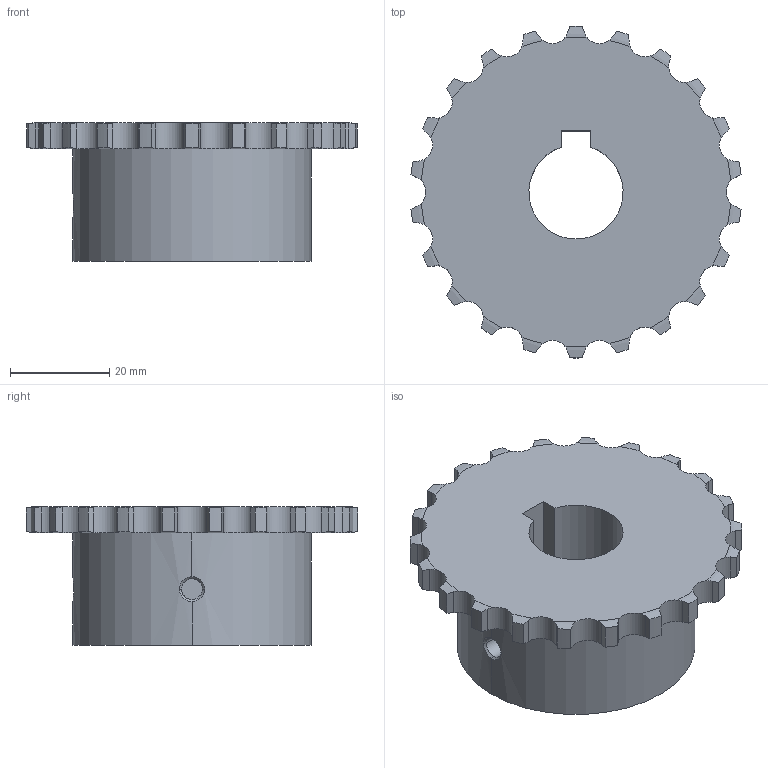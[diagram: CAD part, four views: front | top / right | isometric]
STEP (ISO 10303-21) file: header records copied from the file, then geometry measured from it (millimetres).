
FILE_DESCRIPTION((''),'2;1');
FILE_NAME('510-101-1922_PRT','2021-02-13T',('Brieden'),('Brieden'),'PRO/ENGINEER BY PARAMETRIC TECHNOLOGY CORPORATION, 2010160','PRO/ENGINEER BY PARAMETRIC TECHNOLOGY CORPORATION, 2010160','');
FILE_SCHEMA(('AUTOMOTIVE_DESIGN { 1 0 10303 214 1 1 1 1 }'));
Length unit declared in the file: millimetre
Products named in the file (1): 510-101-1922_PRT
Bounding box: 66.56 x 66.92 x 28 mm (x, y, z)
Volume: 49034.4 mm3; surface area: 12707.7 mm2
Topology: 1 solids, 1 shells, 152 faces, 441 edges, 292 vertices
Faces by surface type: cylinder 95, torus 44, plane 7, bspline 6
Entity records: 7360 total; most frequent: CARTESIAN_POINT 2202, ORIENTED_EDGE 882, DIRECTION 687, PRESENTATION_STYLE_ASSIGNMENT 442, STYLED_ITEM 442, CURVE_STYLE 441, EDGE_CURVE 441, VERTEX_POINT 292
